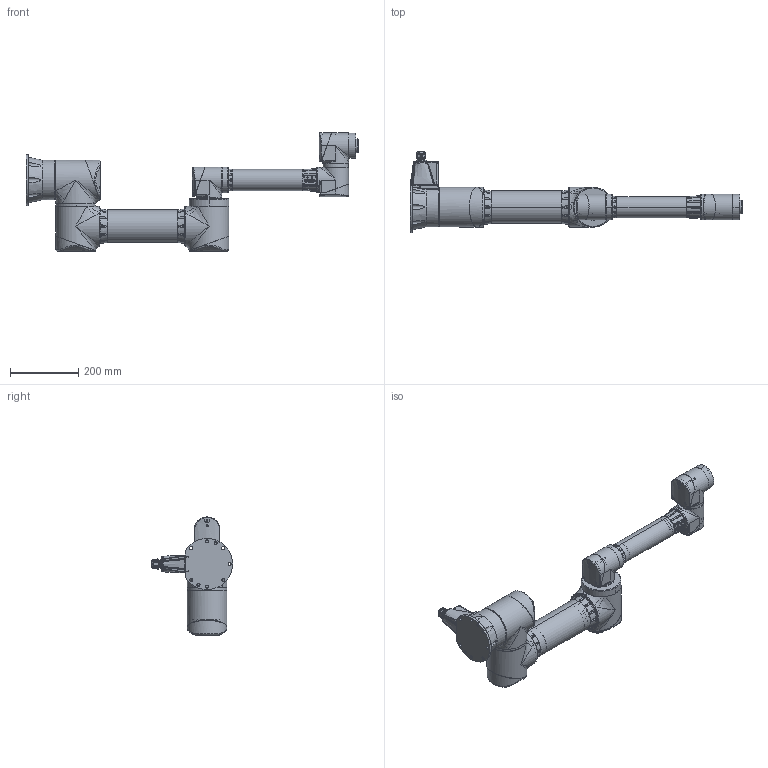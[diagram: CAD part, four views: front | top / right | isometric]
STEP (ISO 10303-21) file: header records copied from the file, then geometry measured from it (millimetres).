
FILE_DESCRIPTION((''),'2;1');
FILE_NAME('ZRA_0507N_ASM','2022-11-10T09:21:09',('ChoSeongHee'),(''),'CREO PARAMETRIC BY PTC INC, 2020354','CREO PARAMETRIC BY PTC INC, 2020354','');
FILE_SCHEMA(('CONFIG_CONTROL_DESIGN'));
Products named in the file (25): FLANGE_B; HOLDER_M; COVER_M; MODULE_M_ASM; RING_M; ARM1_PIPE; FLANGE_ARM1; ARM1_ASM; FLANGE_J3; HOLDER_S; COVER_S; MODULE_S_ASM; PIPE2; FLANGE_J4; FLANGE_J5; PLATE; PORT; ARM2_ASM; FLANGE_E; RING_S; COVER_J; CABLE; PLATE_J; COVER_J_ASM; ZRA_0507N_ASM
Assembly tree (29 placements, depth 3):
  ZRA_0507N_ASM
    FLANGE_B
    MODULE_M_ASM  x3
      HOLDER_M
      COVER_M
    RING_M
    ARM1_ASM
      ARM1_PIPE
      FLANGE_ARM1  x2
    FLANGE_J3
    MODULE_S_ASM  x3
      HOLDER_S
      COVER_S
    ARM2_ASM
      PIPE2
      FLANGE_J4
      FLANGE_J5
      PLATE
      PORT
    FLANGE_E
    RING_S
    COVER_J_ASM
      COVER_J
      CABLE
      PLATE_J
Bounding box: 970.1 x 237.3 x 344.89 mm (x, y, z)
Volume: 11942222.1 mm3; surface area: 920099 mm2
Topology: 28 solids, 212 shells, 3861 faces, 10478 edges, 6914 vertices
Faces by surface type: cylinder 1409, plane 1297, bspline 650, torus 269, cone 210, sphere 18, extrusion 8
Entity records: 146255 total; most frequent: CARTESIAN_POINT 72340, ORIENTED_EDGE 16264, DIRECTION 13894, EDGE_CURVE 8266, VERTEX_POINT 5414, AXIS2_PLACEMENT_3D 5218, VECTOR 3458, LINE 3450
